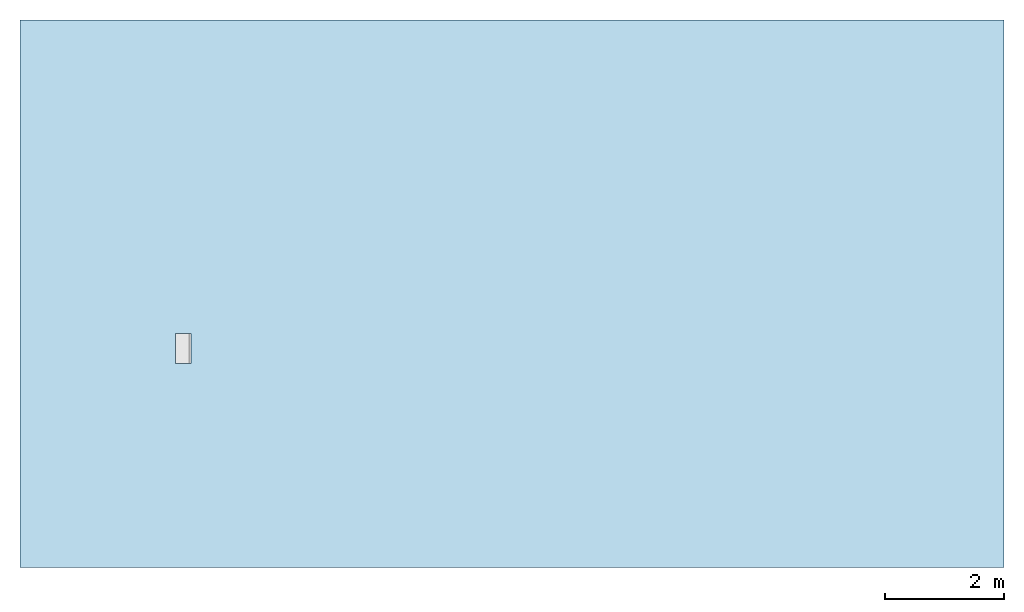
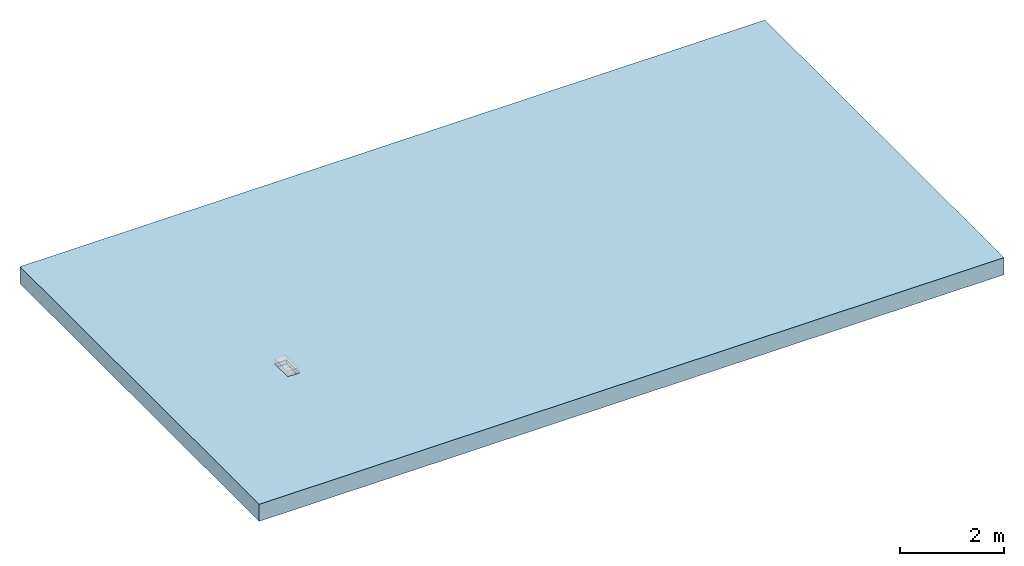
# One storey, part 1 of 2: 1 slab, 1 opening.
"""IFC2X3 building model written with IfcOpenShell, lengths in millimetres."""

from ifc_helpers import new_model, entity, si_unit, converted_unit, direction, frame, frame_2d, origin, origin_2d_with_axis, place, context, subcontext, project, spatial, rectangle, extrude, material, layer, layer_set, layer_usage, element, save


model = new_model("IFC2X3")

# Units and contexts
model_context = context("Model", 3, precision=1e-06, world=origin(), true_north=direction((2.0, 6.12303176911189e-17, 1.0)))
context_of_model = context(None, 3, precision=1e-06, world=origin(), true_north=direction((2.0, 6.12303176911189e-17, 1.0)))
body_context = subcontext(model_context, "Body", "Model", "MODEL_VIEW")
ifc_project = project(units=[si_unit("LENGTHUNIT", "METRE", prefix="MILLI"), si_unit("AREAUNIT", "SQUARE_METRE", prefix="MILLI"), si_unit("VOLUMEUNIT", "CUBIC_METRE", prefix="MILLI"), converted_unit("PLANEANGLEUNIT", "DEGREE", entity("IfcRatioMeasure", 0.0174532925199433), si_unit("PLANEANGLEUNIT", "RADIAN"), dimensions=[0, 0, 0, 0, 0, 0, 0]), si_unit("TIMEUNIT", "SECOND")], contexts=[model_context, context_of_model])

# Site, building, storey
site_placement = place(None, origin())
site = spatial("IfcSite", under=ifc_project, at=site_placement, Name="Default", CompositionType="ELEMENT")
building_placement = place(site_placement, origin())
building = spatial("IfcBuilding", under=site, at=building_placement, CompositionType="ELEMENT")
storey_placement = place(building_placement, origin())
storey = spatial("IfcBuildingStorey", under=building, at=storey_placement, Name="Level 1", CompositionType="ELEMENT", Elevation=0.0)

# Slab, opening
ifc_material = material(Name="Plant")
ifc_layer = layer(ifc_material, 400.0)
ifc_layer_set = layer_set([ifc_layer], Name="Floor:Generic Floor - 400mm")
ifc_layer_usage = layer_usage(ifc_layer_set, "AXIS3", "POSITIVE", 0.0)
slab_placement = place(storey_placement, frame((-17967.0691536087, -3738.31688706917, -400.0)))
slab = element("IfcSlab", 1, at=slab_placement, inside=storey, material=ifc_layer_usage, Name="Floor:Generic Floor - 400mm", ObjectType="Floor:Generic Floor - 400mm", PredefinedType="FLOOR", context=body_context, shape_type="SweptSolid", body=[
    extrude(rectangle(XDim=9180.0, YDim=16500.0, at=frame_2d((0.0, 0.0), x_axis=(0.0, -1.0))), frame((8250.0, 4590.0, 400.0), z_axis=(0.0, 0.0, -1.0), x_axis=(-1.0, 0.0, 0.0)), (0.0, 0.0, 1.0), 400.0),
])
opening_placement = place(slab_placement, origin())
element("IfcOpeningElement", 2, at=opening_placement, cuts=slab, ObjectType="Recess", context=body_context, shape_type="SweptSolid", body=[
    extrude(rectangle(XDim=259.999999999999, YDim=500.000000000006, at=origin_2d_with_axis()), frame((2737.91502003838, 3671.65763662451, 305.0)), (0.0, 0.0, 1.0), 95.0),
])

save(model, "model.ifc")
